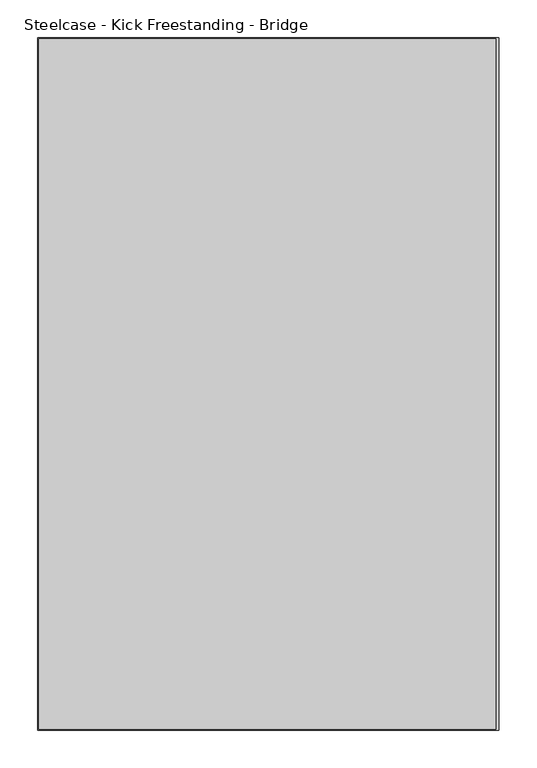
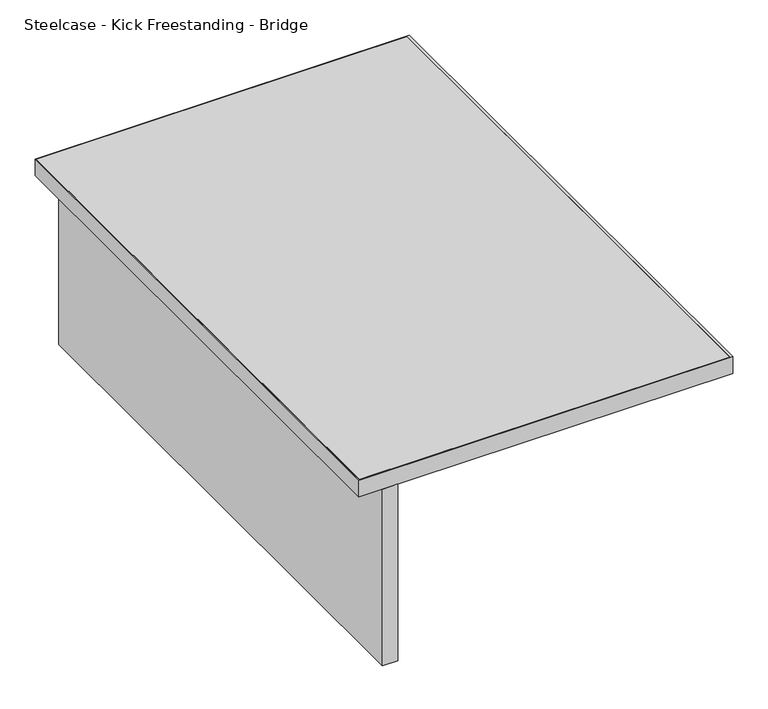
"""IFC4 building model written with IfcOpenShell, lengths in millimetres: furniture geometry, Steelcase - Kick Freestanding - Bridge : 24D x 36W - Half Panel."""

from ifc_helpers import new_model, si_unit, frame, origin, place, context, project, spatial, polyline, outline, extrude, source, transform, mapped, element, save


def steelcase_kick_freestanding_bridge_365cb315(model_context):
    return source(origin(), model_context, "Body", "SweptSolid", [
        extrude(outline(polyline([(2201.9594425, -1461.2145152), (2201.9594425, -546.8145152), (2227.3594425, -546.8145152), (2227.3594425, -1461.2145152), (2201.9594425, -1461.2145152)])), frame((0.0, 0.0, 377.444), z_axis=(0.0, 0.0, 1.0), x_axis=(1.0, 0.0, 0.0)), (0.0, 0.0, 1.0), 304.8),
        extrude(outline(polyline([(2769.2176592, -548.0845152), (2769.2176592, -1459.9445152), (2164.8500425, -1459.9445152), (2164.8500425, -548.0845152), (2769.2176592, -548.0845152)])), frame((0.0, 0.0, 682.244), z_axis=(0.0, 0.0, 1.0), x_axis=(1.0, 0.0, 0.0)), (0.0, 0.0, 1.0), 28.956),
        extrude(outline(polyline([(2773.4594425, -546.8145152), (2773.4594425, -1461.2145152), (2163.8594425, -1461.2145152), (2163.8594425, -546.8145152), (2773.4594425, -546.8145152)]), holes=[polyline([(2769.2176592, -548.0845152), (2164.8500425, -548.0845152), (2164.8500425, -1459.9445152), (2769.2176592, -1459.9445152), (2769.2176592, -548.0845152)])]), frame((0.0, 0.0, 682.244), z_axis=(0.0, 0.0, 1.0), x_axis=(1.0, 0.0, 0.0)), (0.0, 0.0, 1.0), 28.956),
    ])


if __name__ == "__main__":
    model = new_model("IFC4")
    model_context = context("Model", 3, world=origin())
    ifc_project = project(units=[si_unit("LENGTHUNIT", "METRE", prefix="MILLI")], contexts=[model_context])
    site = spatial("IfcSite", under=ifc_project)
    building = spatial("IfcBuilding", under=site)
    placement = place(None, origin())
    steelcase_kick_freestanding_bridge_shape = steelcase_kick_freestanding_bridge_365cb315(model_context)
    element("IfcFurniture", 1, ObjectType="Steelcase - Kick Freestanding - Bridge : 24D x 36W - Half Panel", at=placement, inside=building, context=model_context, shape_type="MappedRepresentation", body=[
        mapped(steelcase_kick_freestanding_bridge_shape, transform((0.0, 0.0, 0.0), x_axis=(1.0, 0.0, 0.0), y_axis=(0.0, 1.0, 0.0), z_axis=(0.0, 0.0, 1.0))),
    ])
    save(model, "model.ifc")
